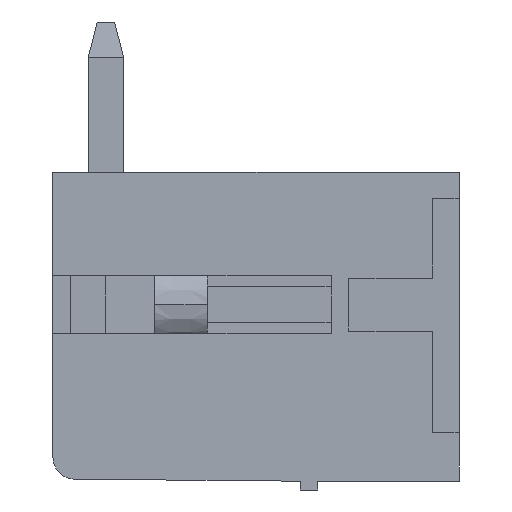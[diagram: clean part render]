
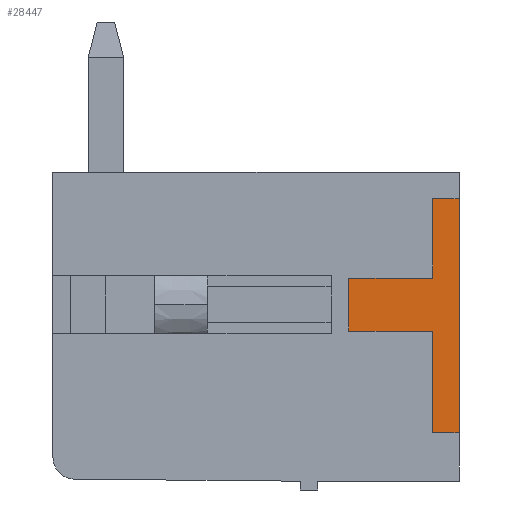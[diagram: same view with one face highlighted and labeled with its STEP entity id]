
A CAD part, left-side view. The second image highlights one B-rep face of the part: STEP entity #28447.
In plain terms, the highlighted planar face has unit normal (-1, 0, 0).
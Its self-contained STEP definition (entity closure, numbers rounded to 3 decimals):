
#2542 = PLANE('',#2543);
#2543 = AXIS2_PLACEMENT_3D('',#2544,#2545,#2546);
#2544 = CARTESIAN_POINT('',(0.,0.,7.));
#2545 = DIRECTION('',(0.,-1.,0.));
#2546 = DIRECTION('',(0.,0.,-1.));
#6810 = VERTEX_POINT('',#6811);
#6811 = CARTESIAN_POINT('',(-0.2,0.,1.1));
#6825 = PLANE('',#6826);
#6826 = AXIS2_PLACEMENT_3D('',#6827,#6828,#6829);
#6827 = CARTESIAN_POINT('',(0.,0.6,1.1));
#6828 = DIRECTION('',(0.,0.,-1.));
#6829 = DIRECTION('',(0.,-1.,0.));
#6837 = EDGE_CURVE('',#6810,#6838,#6840,.T.);
#6838 = VERTEX_POINT('',#6839);
#6839 = CARTESIAN_POINT('',(-0.2,0.,6.4));
#6840 = SURFACE_CURVE('',#6841,(#6845,#6852),.PCURVE_S1.);
#6841 = LINE('',#6842,#6843);
#6842 = CARTESIAN_POINT('',(-0.2,0.,1.1));
#6843 = VECTOR('',#6844,1.);
#6844 = DIRECTION('',(0.,0.,1.));
#6845 = PCURVE('',#2542,#6846);
#6846 = DEFINITIONAL_REPRESENTATION('',(#6847),#6851);
#6847 = LINE('',#6848,#6849);
#6848 = CARTESIAN_POINT('',(5.9,-0.2));
#6849 = VECTOR('',#6850,1.);
#6850 = DIRECTION('',(-1.,0.));
#6851 = ( GEOMETRIC_REPRESENTATION_CONTEXT(2) 
PARAMETRIC_REPRESENTATION_CONTEXT() REPRESENTATION_CONTEXT('2D SPACE',''
  ) );
#6852 = PCURVE('',#6853,#6858);
#6853 = PLANE('',#6854);
#6854 = AXIS2_PLACEMENT_3D('',#6855,#6856,#6857);
#6855 = CARTESIAN_POINT('',(-0.2,0.,0.));
#6856 = DIRECTION('',(-1.,0.,0.));
#6857 = DIRECTION('',(0.,0.,1.));
#6858 = DEFINITIONAL_REPRESENTATION('',(#6859),#6863);
#6859 = LINE('',#6860,#6861);
#6860 = CARTESIAN_POINT('',(1.1,0.));
#6861 = VECTOR('',#6862,1.);
#6862 = DIRECTION('',(1.,0.));
#6863 = ( GEOMETRIC_REPRESENTATION_CONTEXT(2) 
PARAMETRIC_REPRESENTATION_CONTEXT() REPRESENTATION_CONTEXT('2D SPACE',''
  ) );
#6881 = PLANE('',#6882);
#6882 = AXIS2_PLACEMENT_3D('',#6883,#6884,#6885);
#6883 = CARTESIAN_POINT('',(0.,0.,6.4));
#6884 = DIRECTION('',(0.,0.,1.));
#6885 = DIRECTION('',(0.,1.,0.));
#23751 = PLANE('',#23752);
#23752 = AXIS2_PLACEMENT_3D('',#23753,#23754,#23755);
#23753 = CARTESIAN_POINT('',(0.,0.6,6.4));
#23754 = DIRECTION('',(0.,1.,0.));
#23755 = DIRECTION('',(0.,0.,-1.));
#23779 = PLANE('',#23780);
#23780 = AXIS2_PLACEMENT_3D('',#23781,#23782,#23783);
#23781 = CARTESIAN_POINT('',(0.,0.6,4.6));
#23782 = DIRECTION('',(0.,0.,1.));
#23783 = DIRECTION('',(0.,1.,0.));
#23807 = PLANE('',#23808);
#23808 = AXIS2_PLACEMENT_3D('',#23809,#23810,#23811);
#23809 = CARTESIAN_POINT('',(0.,2.5,4.6));
#23810 = DIRECTION('',(0.,1.,0.));
#23811 = DIRECTION('',(0.,0.,-1.));
#23835 = PLANE('',#23836);
#23836 = AXIS2_PLACEMENT_3D('',#23837,#23838,#23839);
#23837 = CARTESIAN_POINT('',(0.,2.5,3.4));
#23838 = DIRECTION('',(0.,0.,-1.));
#23839 = DIRECTION('',(0.,-1.,0.));
#23863 = PLANE('',#23864);
#23864 = AXIS2_PLACEMENT_3D('',#23865,#23866,#23867);
#23865 = CARTESIAN_POINT('',(0.,0.6,3.4));
#23866 = DIRECTION('',(0.,1.,0.));
#23867 = DIRECTION('',(0.,0.,-1.));
#28404 = EDGE_CURVE('',#6838,#28405,#28407,.T.);
#28405 = VERTEX_POINT('',#28406);
#28406 = CARTESIAN_POINT('',(-0.2,0.6,6.4));
#28407 = SURFACE_CURVE('',#28408,(#28412,#28419),.PCURVE_S1.);
#28408 = LINE('',#28409,#28410);
#28409 = CARTESIAN_POINT('',(-0.2,0.,6.4));
#28410 = VECTOR('',#28411,1.);
#28411 = DIRECTION('',(0.,1.,0.));
#28412 = PCURVE('',#6881,#28413);
#28413 = DEFINITIONAL_REPRESENTATION('',(#28414),#28418);
#28414 = LINE('',#28415,#28416);
#28415 = CARTESIAN_POINT('',(0.,0.2));
#28416 = VECTOR('',#28417,1.);
#28417 = DIRECTION('',(1.,0.));
#28418 = ( GEOMETRIC_REPRESENTATION_CONTEXT(2) 
PARAMETRIC_REPRESENTATION_CONTEXT() REPRESENTATION_CONTEXT('2D SPACE',''
  ) );
#28419 = PCURVE('',#6853,#28420);
#28420 = DEFINITIONAL_REPRESENTATION('',(#28421),#28425);
#28421 = LINE('',#28422,#28423);
#28422 = CARTESIAN_POINT('',(6.4,0.));
#28423 = VECTOR('',#28424,1.);
#28424 = DIRECTION('',(0.,1.));
#28425 = ( GEOMETRIC_REPRESENTATION_CONTEXT(2) 
PARAMETRIC_REPRESENTATION_CONTEXT() REPRESENTATION_CONTEXT('2D SPACE',''
  ) );
#28447 = ADVANCED_FACE('',(#28448),#6853,.T.);
#28448 = FACE_BOUND('',#28449,.F.);
#28449 = EDGE_LOOP('',(#28450,#28451,#28452,#28475,#28498,#28521,#28544,
    #28567));
#28450 = ORIENTED_EDGE('',*,*,#28404,.F.);
#28451 = ORIENTED_EDGE('',*,*,#6837,.F.);
#28452 = ORIENTED_EDGE('',*,*,#28453,.F.);
#28453 = EDGE_CURVE('',#28454,#6810,#28456,.T.);
#28454 = VERTEX_POINT('',#28455);
#28455 = CARTESIAN_POINT('',(-0.2,0.6,1.1));
#28456 = SURFACE_CURVE('',#28457,(#28461,#28468),.PCURVE_S1.);
#28457 = LINE('',#28458,#28459);
#28458 = CARTESIAN_POINT('',(-0.2,0.6,1.1));
#28459 = VECTOR('',#28460,1.);
#28460 = DIRECTION('',(0.,-1.,0.));
#28461 = PCURVE('',#6853,#28462);
#28462 = DEFINITIONAL_REPRESENTATION('',(#28463),#28467);
#28463 = LINE('',#28464,#28465);
#28464 = CARTESIAN_POINT('',(1.1,0.6));
#28465 = VECTOR('',#28466,1.);
#28466 = DIRECTION('',(0.,-1.));
#28467 = ( GEOMETRIC_REPRESENTATION_CONTEXT(2) 
PARAMETRIC_REPRESENTATION_CONTEXT() REPRESENTATION_CONTEXT('2D SPACE',''
  ) );
#28468 = PCURVE('',#6825,#28469);
#28469 = DEFINITIONAL_REPRESENTATION('',(#28470),#28474);
#28470 = LINE('',#28471,#28472);
#28471 = CARTESIAN_POINT('',(0.,0.2));
#28472 = VECTOR('',#28473,1.);
#28473 = DIRECTION('',(1.,0.));
#28474 = ( GEOMETRIC_REPRESENTATION_CONTEXT(2) 
PARAMETRIC_REPRESENTATION_CONTEXT() REPRESENTATION_CONTEXT('2D SPACE',''
  ) );
#28475 = ORIENTED_EDGE('',*,*,#28476,.F.);
#28476 = EDGE_CURVE('',#28477,#28454,#28479,.T.);
#28477 = VERTEX_POINT('',#28478);
#28478 = CARTESIAN_POINT('',(-0.2,0.6,3.4));
#28479 = SURFACE_CURVE('',#28480,(#28484,#28491),.PCURVE_S1.);
#28480 = LINE('',#28481,#28482);
#28481 = CARTESIAN_POINT('',(-0.2,0.6,3.4));
#28482 = VECTOR('',#28483,1.);
#28483 = DIRECTION('',(0.,0.,-1.));
#28484 = PCURVE('',#6853,#28485);
#28485 = DEFINITIONAL_REPRESENTATION('',(#28486),#28490);
#28486 = LINE('',#28487,#28488);
#28487 = CARTESIAN_POINT('',(3.4,0.6));
#28488 = VECTOR('',#28489,1.);
#28489 = DIRECTION('',(-1.,0.));
#28490 = ( GEOMETRIC_REPRESENTATION_CONTEXT(2) 
PARAMETRIC_REPRESENTATION_CONTEXT() REPRESENTATION_CONTEXT('2D SPACE',''
  ) );
#28491 = PCURVE('',#23863,#28492);
#28492 = DEFINITIONAL_REPRESENTATION('',(#28493),#28497);
#28493 = LINE('',#28494,#28495);
#28494 = CARTESIAN_POINT('',(0.,0.2));
#28495 = VECTOR('',#28496,1.);
#28496 = DIRECTION('',(1.,0.));
#28497 = ( GEOMETRIC_REPRESENTATION_CONTEXT(2) 
PARAMETRIC_REPRESENTATION_CONTEXT() REPRESENTATION_CONTEXT('2D SPACE',''
  ) );
#28498 = ORIENTED_EDGE('',*,*,#28499,.F.);
#28499 = EDGE_CURVE('',#28500,#28477,#28502,.T.);
#28500 = VERTEX_POINT('',#28501);
#28501 = CARTESIAN_POINT('',(-0.2,2.5,3.4));
#28502 = SURFACE_CURVE('',#28503,(#28507,#28514),.PCURVE_S1.);
#28503 = LINE('',#28504,#28505);
#28504 = CARTESIAN_POINT('',(-0.2,2.5,3.4));
#28505 = VECTOR('',#28506,1.);
#28506 = DIRECTION('',(0.,-1.,0.));
#28507 = PCURVE('',#6853,#28508);
#28508 = DEFINITIONAL_REPRESENTATION('',(#28509),#28513);
#28509 = LINE('',#28510,#28511);
#28510 = CARTESIAN_POINT('',(3.4,2.5));
#28511 = VECTOR('',#28512,1.);
#28512 = DIRECTION('',(0.,-1.));
#28513 = ( GEOMETRIC_REPRESENTATION_CONTEXT(2) 
PARAMETRIC_REPRESENTATION_CONTEXT() REPRESENTATION_CONTEXT('2D SPACE',''
  ) );
#28514 = PCURVE('',#23835,#28515);
#28515 = DEFINITIONAL_REPRESENTATION('',(#28516),#28520);
#28516 = LINE('',#28517,#28518);
#28517 = CARTESIAN_POINT('',(0.,0.2));
#28518 = VECTOR('',#28519,1.);
#28519 = DIRECTION('',(1.,0.));
#28520 = ( GEOMETRIC_REPRESENTATION_CONTEXT(2) 
PARAMETRIC_REPRESENTATION_CONTEXT() REPRESENTATION_CONTEXT('2D SPACE',''
  ) );
#28521 = ORIENTED_EDGE('',*,*,#28522,.F.);
#28522 = EDGE_CURVE('',#28523,#28500,#28525,.T.);
#28523 = VERTEX_POINT('',#28524);
#28524 = CARTESIAN_POINT('',(-0.2,2.5,4.6));
#28525 = SURFACE_CURVE('',#28526,(#28530,#28537),.PCURVE_S1.);
#28526 = LINE('',#28527,#28528);
#28527 = CARTESIAN_POINT('',(-0.2,2.5,4.6));
#28528 = VECTOR('',#28529,1.);
#28529 = DIRECTION('',(0.,0.,-1.));
#28530 = PCURVE('',#6853,#28531);
#28531 = DEFINITIONAL_REPRESENTATION('',(#28532),#28536);
#28532 = LINE('',#28533,#28534);
#28533 = CARTESIAN_POINT('',(4.6,2.5));
#28534 = VECTOR('',#28535,1.);
#28535 = DIRECTION('',(-1.,0.));
#28536 = ( GEOMETRIC_REPRESENTATION_CONTEXT(2) 
PARAMETRIC_REPRESENTATION_CONTEXT() REPRESENTATION_CONTEXT('2D SPACE',''
  ) );
#28537 = PCURVE('',#23807,#28538);
#28538 = DEFINITIONAL_REPRESENTATION('',(#28539),#28543);
#28539 = LINE('',#28540,#28541);
#28540 = CARTESIAN_POINT('',(0.,0.2));
#28541 = VECTOR('',#28542,1.);
#28542 = DIRECTION('',(1.,0.));
#28543 = ( GEOMETRIC_REPRESENTATION_CONTEXT(2) 
PARAMETRIC_REPRESENTATION_CONTEXT() REPRESENTATION_CONTEXT('2D SPACE',''
  ) );
#28544 = ORIENTED_EDGE('',*,*,#28545,.F.);
#28545 = EDGE_CURVE('',#28546,#28523,#28548,.T.);
#28546 = VERTEX_POINT('',#28547);
#28547 = CARTESIAN_POINT('',(-0.2,0.6,4.6));
#28548 = SURFACE_CURVE('',#28549,(#28553,#28560),.PCURVE_S1.);
#28549 = LINE('',#28550,#28551);
#28550 = CARTESIAN_POINT('',(-0.2,0.6,4.6));
#28551 = VECTOR('',#28552,1.);
#28552 = DIRECTION('',(0.,1.,0.));
#28553 = PCURVE('',#6853,#28554);
#28554 = DEFINITIONAL_REPRESENTATION('',(#28555),#28559);
#28555 = LINE('',#28556,#28557);
#28556 = CARTESIAN_POINT('',(4.6,0.6));
#28557 = VECTOR('',#28558,1.);
#28558 = DIRECTION('',(0.,1.));
#28559 = ( GEOMETRIC_REPRESENTATION_CONTEXT(2) 
PARAMETRIC_REPRESENTATION_CONTEXT() REPRESENTATION_CONTEXT('2D SPACE',''
  ) );
#28560 = PCURVE('',#23779,#28561);
#28561 = DEFINITIONAL_REPRESENTATION('',(#28562),#28566);
#28562 = LINE('',#28563,#28564);
#28563 = CARTESIAN_POINT('',(0.,0.2));
#28564 = VECTOR('',#28565,1.);
#28565 = DIRECTION('',(1.,0.));
#28566 = ( GEOMETRIC_REPRESENTATION_CONTEXT(2) 
PARAMETRIC_REPRESENTATION_CONTEXT() REPRESENTATION_CONTEXT('2D SPACE',''
  ) );
#28567 = ORIENTED_EDGE('',*,*,#28568,.F.);
#28568 = EDGE_CURVE('',#28405,#28546,#28569,.T.);
#28569 = SURFACE_CURVE('',#28570,(#28574,#28581),.PCURVE_S1.);
#28570 = LINE('',#28571,#28572);
#28571 = CARTESIAN_POINT('',(-0.2,0.6,6.4));
#28572 = VECTOR('',#28573,1.);
#28573 = DIRECTION('',(0.,0.,-1.));
#28574 = PCURVE('',#6853,#28575);
#28575 = DEFINITIONAL_REPRESENTATION('',(#28576),#28580);
#28576 = LINE('',#28577,#28578);
#28577 = CARTESIAN_POINT('',(6.4,0.6));
#28578 = VECTOR('',#28579,1.);
#28579 = DIRECTION('',(-1.,0.));
#28580 = ( GEOMETRIC_REPRESENTATION_CONTEXT(2) 
PARAMETRIC_REPRESENTATION_CONTEXT() REPRESENTATION_CONTEXT('2D SPACE',''
  ) );
#28581 = PCURVE('',#23751,#28582);
#28582 = DEFINITIONAL_REPRESENTATION('',(#28583),#28587);
#28583 = LINE('',#28584,#28585);
#28584 = CARTESIAN_POINT('',(0.,0.2));
#28585 = VECTOR('',#28586,1.);
#28586 = DIRECTION('',(1.,0.));
#28587 = ( GEOMETRIC_REPRESENTATION_CONTEXT(2) 
PARAMETRIC_REPRESENTATION_CONTEXT() REPRESENTATION_CONTEXT('2D SPACE',''
  ) );
